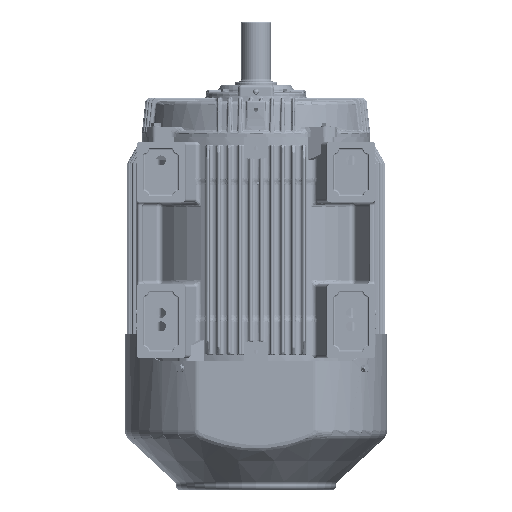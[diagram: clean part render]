
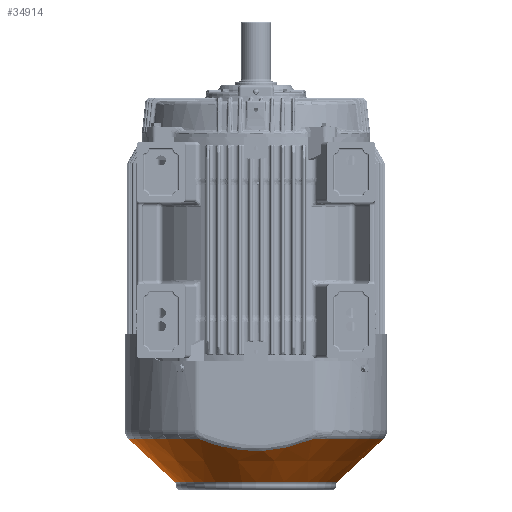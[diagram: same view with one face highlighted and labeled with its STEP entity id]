
A CAD part, front view. The second image highlights one B-rep face of the part: STEP entity #34914.
In plain terms, the highlighted conical face has half-angle 47 degrees and reference radius 152.544 mm.
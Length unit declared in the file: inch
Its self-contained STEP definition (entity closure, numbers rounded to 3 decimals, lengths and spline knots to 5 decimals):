
#895 = ORIENTED_EDGE ( 'NONE', *, *, #375964, .T. ) ;
#1356 = DIRECTION ( 'NONE',  ( 0., 0., 1. ) ) ;
#3348 = CARTESIAN_POINT ( 'NONE',  ( 0., 0., -17.09381 ) ) ;
#9971 = CARTESIAN_POINT ( 'NONE',  ( 9.35236, 0., -13.97297 ) ) ;
#20377 = VERTEX_POINT ( 'NONE', #373166 ) ;
#22180 = CARTESIAN_POINT ( 'NONE',  ( 4.12617, -8.39293, -13.97297 ) ) ;
#24840 = CARTESIAN_POINT ( 'NONE',  ( 2.79336, -8.41469, -14.44975 ) ) ;
#29564 = CARTESIAN_POINT ( 'NONE',  ( 4.12617, -8.39293, -13.97297 ) ) ;
#33913 = LINE ( 'NONE', #179415, #111654 ) ;
#34914 = ADVANCED_FACE ( 'NONE', ( #365839 ), #203344, .T. ) ;
#36582 = CARTESIAN_POINT ( 'NONE',  ( 0.89224, -8.4321, -14.7889 ) ) ;
#41234 = CARTESIAN_POINT ( 'NONE',  ( 0.09312, -8.43425, -14.82909 ) ) ;
#43237 = AXIS2_PLACEMENT_3D ( 'NONE', #3348, #332062, #327398 ) ;
#44152 = DIRECTION ( 'NONE',  ( 1., 0., 0. ) ) ;
#50752 = CARTESIAN_POINT ( 'NONE',  ( 0., 0., -13.97297 ) ) ;
#58961 = ORIENTED_EDGE ( 'NONE', *, *, #226833, .F. ) ;
#74701 = CARTESIAN_POINT ( 'NONE',  ( -2.78153, -8.41408, -14.43568 ) ) ;
#76879 = CIRCLE ( 'NONE', #137841, 9.35236 ) ;
#79209 = EDGE_CURVE ( 'NONE', #149361, #181639, #76879, .T. ) ;
#82160 = EDGE_LOOP ( 'NONE', ( #209323, #132065, #895, #313282, #445774, #58961 ) ) ;
#94644 = B_SPLINE_CURVE_WITH_KNOTS ( 'NONE', 3,
 ( #29564, #175056, #24840, #279728, #291401, #36582, #155626, #224714, #293727, #441380, #41234, #112750, #115098, #398648, #260408, #262732, #74701, #372273, #298404, #153289, #148594, #255714, #405640, #253394 ),
 .UNSPECIFIED., .F., .F.,
 ( 4, 2, 2, 2, 2, 2, 2, 2, 2, 2, 2, 4 ),
 ( 0., 0.05348, 0.08022, 0.09358, 0.10027, 0.10695, 0.13369, 0.16043, 0.18717, 0.19385, 0.20054, 0.21391 ),
 .UNSPECIFIED. ) ;
#104143 = CARTESIAN_POINT ( 'NONE',  ( -6.00567, 0., -17.09381 ) ) ;
#111654 = VECTOR ( 'NONE', #431684, 39.37008 ) ;
#112750 = CARTESIAN_POINT ( 'NONE',  ( -0.35258, -8.43426, -14.82927 ) ) ;
#115098 = CARTESIAN_POINT ( 'NONE',  ( -0.70572, -8.43318, -14.8093 ) ) ;
#115217 = DIRECTION ( 'NONE',  ( 1., 0., 0. ) ) ;
#132065 = ORIENTED_EDGE ( 'NONE', *, *, #349448, .T. ) ;
#137841 = AXIS2_PLACEMENT_3D ( 'NONE', #459293, #380768, #278287 ) ;
#148594 = CARTESIAN_POINT ( 'NONE',  ( -3.54228, -8.40263, -14.19111 ) ) ;
#149361 = VERTEX_POINT ( 'NONE', #22180 ) ;
#153289 = CARTESIAN_POINT ( 'NONE',  ( -3.45805, -8.40396, -14.22018 ) ) ;
#155626 = CARTESIAN_POINT ( 'NONE',  ( 0.71596, -8.43289, -14.80383 ) ) ;
#156664 = VERTEX_POINT ( 'NONE', #104143 ) ;
#165147 = CIRCLE ( 'NONE', #43237, 6.00567 ) ;
#171658 = LINE ( 'NONE', #390632, #382014 ) ;
#172549 = VERTEX_POINT ( 'NONE', #297772 ) ;
#175056 = CARTESIAN_POINT ( 'NONE',  ( 3.46498, -8.4043, -14.23548 ) ) ;
#179415 = CARTESIAN_POINT ( 'NONE',  ( 6.00567, 0., -17.09381 ) ) ;
#181639 = VERTEX_POINT ( 'NONE', #9971 ) ;
#196215 = DIRECTION ( 'NONE',  ( 0., 0., 1. ) ) ;
#203344 = CONICAL_SURFACE ( 'NONE', #286888, 6.00567, 0.82 ) ;
#209323 = ORIENTED_EDGE ( 'NONE', *, *, #324772, .F. ) ;
#224714 = CARTESIAN_POINT ( 'NONE',  ( 0.44996, -8.4337, -14.81888 ) ) ;
#226833 = EDGE_CURVE ( 'NONE', #172549, #338302, #469585, .T. ) ;
#234501 = CARTESIAN_POINT ( 'NONE',  ( -4.12617, -8.39293, -13.97297 ) ) ;
#253394 = CARTESIAN_POINT ( 'NONE',  ( -4.12617, -8.39293, -13.97297 ) ) ;
#255714 = CARTESIAN_POINT ( 'NONE',  ( -3.79399, -8.39857, -14.10157 ) ) ;
#260408 = CARTESIAN_POINT ( 'NONE',  ( -1.75247, -8.42608, -14.67467 ) ) ;
#262732 = CARTESIAN_POINT ( 'NONE',  ( -2.4404, -8.41857, -14.52651 ) ) ;
#278287 = DIRECTION ( 'NONE',  ( 1., 0., 0. ) ) ;
#279728 = CARTESIAN_POINT ( 'NONE',  ( 1.76455, -8.42596, -14.67244 ) ) ;
#286888 = AXIS2_PLACEMENT_3D ( 'NONE', #399229, #1356, #44152 ) ;
#291401 = CARTESIAN_POINT ( 'NONE',  ( 1.41804, -8.42899, -14.73019 ) ) ;
#293727 = CARTESIAN_POINT ( 'NONE',  ( 0.36103, -8.4339, -14.82268 ) ) ;
#297772 = CARTESIAN_POINT ( 'NONE',  ( -9.35236, 0., -13.97297 ) ) ;
#298404 = CARTESIAN_POINT ( 'NONE',  ( -3.28933, -8.40657, -14.27652 ) ) ;
#313282 = ORIENTED_EDGE ( 'NONE', *, *, #79209, .F. ) ;
#324772 = EDGE_CURVE ( 'NONE', #156664, #172549, #171658, .T. ) ;
#327398 = DIRECTION ( 'NONE',  ( 1., 0., 0. ) ) ;
#332062 = DIRECTION ( 'NONE',  ( 0., 0., 1. ) ) ;
#338302 = VERTEX_POINT ( 'NONE', #234501 ) ;
#340269 = AXIS2_PLACEMENT_3D ( 'NONE', #50752, #196215, #115217 ) ;
#349448 = EDGE_CURVE ( 'NONE', #156664, #20377, #165147, .T. ) ;
#365839 = FACE_OUTER_BOUND ( 'NONE', #82160, .T. ) ;
#372273 = CARTESIAN_POINT ( 'NONE',  ( -3.20483, -8.40785, -14.30381 ) ) ;
#373166 = CARTESIAN_POINT ( 'NONE',  ( 6.00567, 0., -17.09381 ) ) ;
#375964 = EDGE_CURVE ( 'NONE', #20377, #181639, #33913, .T. ) ;
#380768 = DIRECTION ( 'NONE',  ( 0., 0., 1. ) ) ;
#382014 = VECTOR ( 'NONE', #457398, 39.37008 ) ;
#390632 = CARTESIAN_POINT ( 'NONE',  ( -6.00567, 0., -17.09381 ) ) ;
#398648 = CARTESIAN_POINT ( 'NONE',  ( -1.40566, -8.42908, -14.73199 ) ) ;
#399229 = CARTESIAN_POINT ( 'NONE',  ( 0., 0., -17.09381 ) ) ;
#405640 = CARTESIAN_POINT ( 'NONE',  ( -3.96061, -8.39578, -14.03871 ) ) ;
#425680 = EDGE_CURVE ( 'NONE', #149361, #338302, #94644, .T. ) ;
#431684 = DIRECTION ( 'NONE',  ( 0.731, 0., 0.682 ) ) ;
#441380 = CARTESIAN_POINT ( 'NONE',  ( 0.18263, -8.43418, -14.82779 ) ) ;
#445774 = ORIENTED_EDGE ( 'NONE', *, *, #425680, .T. ) ;
#457398 = DIRECTION ( 'NONE',  ( -0.731, 0., 0.682 ) ) ;
#459293 = CARTESIAN_POINT ( 'NONE',  ( 0., 0., -13.97297 ) ) ;
#469585 = CIRCLE ( 'NONE', #340269, 9.35236 ) ;
